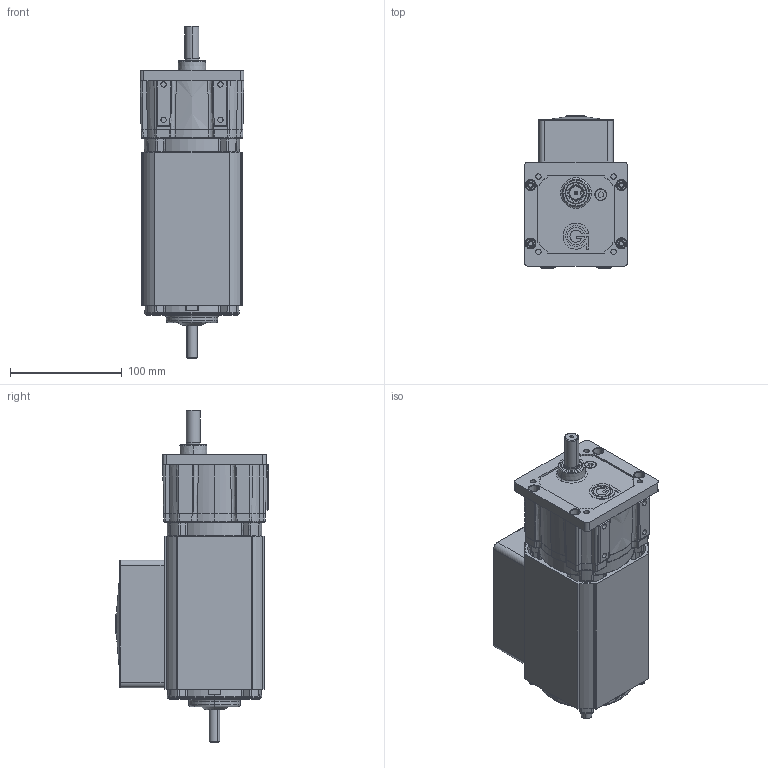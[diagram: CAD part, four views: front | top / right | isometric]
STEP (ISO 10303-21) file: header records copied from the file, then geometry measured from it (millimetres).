
FILE_DESCRIPTION (( 'STEP AP214' ), '1' );
FILE_NAME ('AC8060NV-PS1900.STEP', '2016-04-28T13:37:00', ( '' ), ( '' ), 'SwSTEP 2.0', 'SolidWorks 2015', '' );
FILE_SCHEMA (( 'AUTOMOTIVE_DESIGN' ));
Length unit declared in the file: millimetre
Products named in the file (1): AC8060NV-PS1900
Bounding box: 92.71 x 136.23 x 297.16 mm (x, y, z)
Surface area: 188251.1 mm2 (no closed solid volume)
Topology: 0 solids, 29 shells, 924 faces, 2682 edges, 1758 vertices
Faces by surface type: cylinder 256, plane 251, bspline 201, cone 112, torus 80, sphere 24
Entity records: 47720 total; most frequent: CARTESIAN_POINT 14787, ORIENTED_EDGE 4658, DIRECTION 4611, EDGE_CURVE 2678, AXIS2_PLACEMENT_3D 1865, VERTEX_POINT 1758, CIRCLE 1141, EDGE_LOOP 1003
